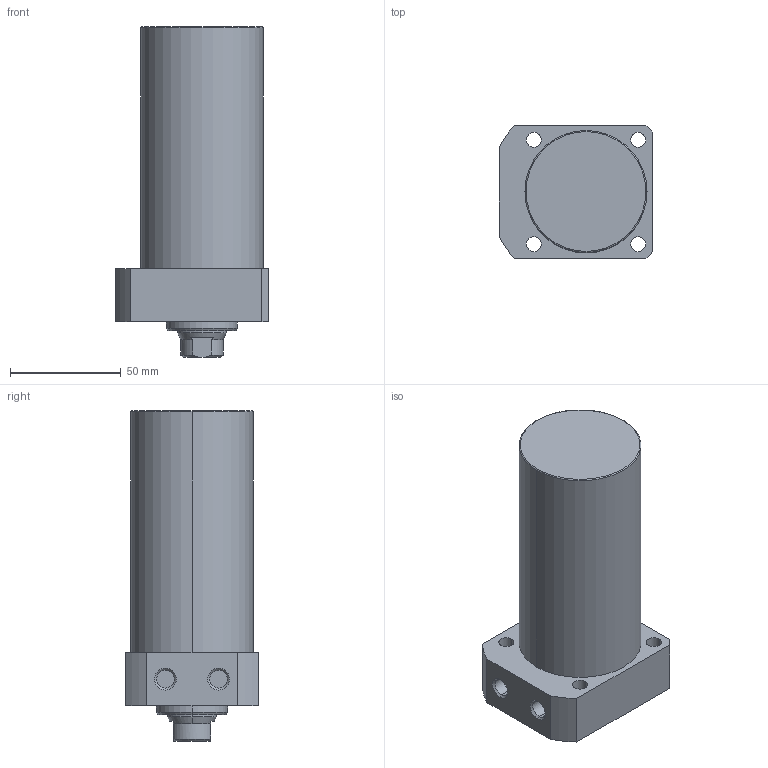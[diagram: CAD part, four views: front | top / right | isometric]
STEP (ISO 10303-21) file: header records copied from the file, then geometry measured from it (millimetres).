
FILE_DESCRIPTION (( 'STEP AP203' ), '1' );
FILE_NAME ('CLLR055-CA-080.STEP', '2017-05-16T03:39:14', ( '' ), ( '' ), 'SwSTEP 2.0', 'SolidWorks 2015', '' );
FILE_SCHEMA (( 'CONFIG_CONTROL_DESIGN' ));
Length unit declared in the file: millimetre
Products named in the file (1): CLLR055-CA-080
Bounding box: 69 x 60 x 149 mm (x, y, z)
Volume: 356592.9 mm3; surface area: 37120.8 mm2
Topology: 1 solids, 1 shells, 65 faces, 150 edges, 93 vertices
Faces by surface type: cylinder 29, plane 19, cone 15, torus 2
Entity records: 1959 total; most frequent: DIRECTION 348, CARTESIAN_POINT 347, ORIENTED_EDGE 296, EDGE_CURVE 148, AXIS2_PLACEMENT_3D 142, VERTEX_POINT 93, EDGE_LOOP 81, CIRCLE 76
